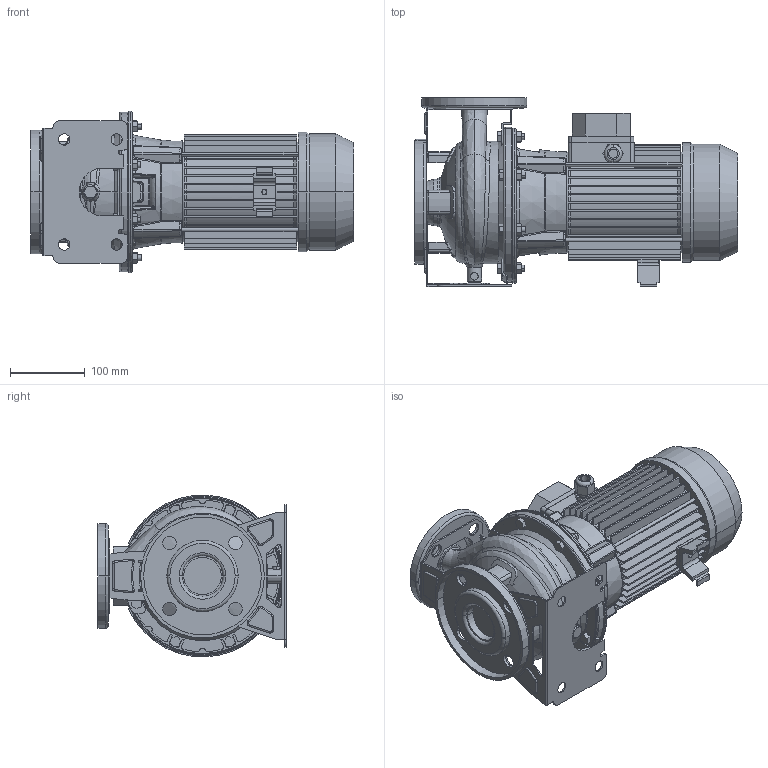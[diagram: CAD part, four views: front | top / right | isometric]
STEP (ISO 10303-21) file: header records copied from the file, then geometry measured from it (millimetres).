
FILE_DESCRIPTION((''),'2;1');
FILE_NAME('3M_32-125_1_1_IE3_ASM','2016-09-28T',('rosa'),('"Ebara Pumps Europe +39.444.706811"'),'PRO/ENGINEER BY PARAMETRIC TECHNOLOGY CORPORATION, 2012130','PRO/ENGINEER BY PARAMETRIC TECHNOLOGY CORPORATION, 2012130','');
FILE_SCHEMA(('AUTOMOTIVE_DESIGN { 1 0 10303 214 1 1 1 1 }'));
Products named in the file (13): CORPO_32-125_AF1; ASP_32-125; FLANGIA_DIN_50; MAND_32-125; FLANGIA_DIN_32; BASE_3M_32-125; CORPO_SALDATO_32-125_ASM; 80740; MEC_80X130_IE3; SOSTEGNO_72009; 72015; 6; 3M_32-125_1_1_IE3_ASM
Assembly tree (19 placements, depth 3):
  3M_32-125_1_1_IE3_ASM
    CORPO_SALDATO_32-125_ASM
      CORPO_32-125_AF1
      ASP_32-125
      FLANGIA_DIN_50
      MAND_32-125
      FLANGIA_DIN_32
      BASE_3M_32-125
    80740
    MEC_80X130_IE3
    SOSTEGNO_72009
    72015
    6  x8
Bounding box: 431 x 252 x 215.8 mm (x, y, z)
Volume: 4506110.9 mm3; surface area: 948477.3 mm2
Topology: 21 solids, 29 shells, 3285 faces, 8635 edges, 5294 vertices
Faces by surface type: plane 818, bspline 812, cylinder 732, cone 412, torus 386, sphere 73, extrusion 52
Entity records: 246626 total; most frequent: CARTESIAN_POINT 152637, ORIENTED_EDGE 16068, DIRECTION 12394, EDGE_CURVE 8035, VERTEX_POINT 5038, AXIS2_PLACEMENT_3D 5016, PRESENTATION_STYLE_ASSIGNMENT 4569, STYLED_ITEM 4569
